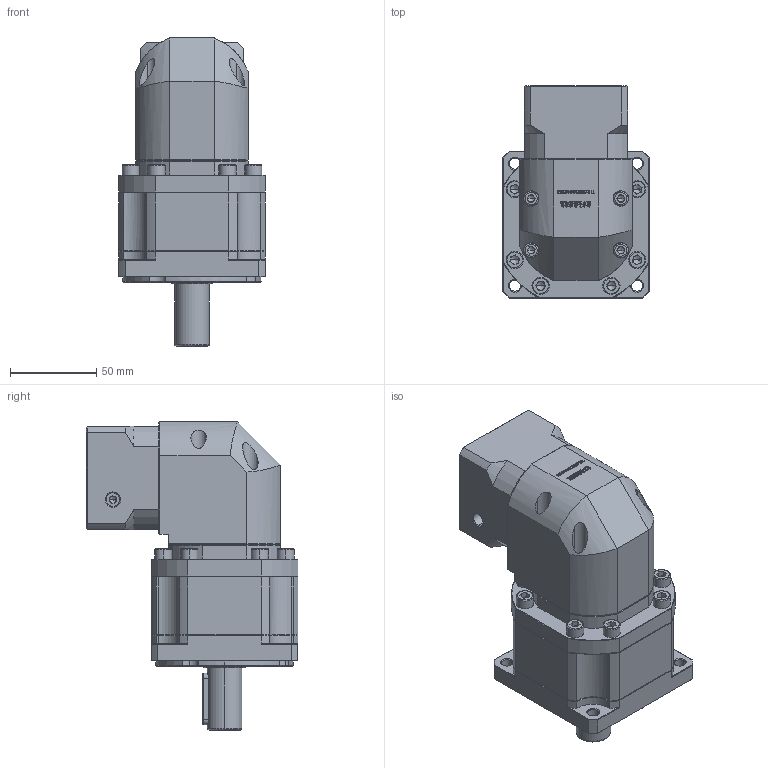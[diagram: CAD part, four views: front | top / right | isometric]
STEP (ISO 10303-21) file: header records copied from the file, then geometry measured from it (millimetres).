
FILE_DESCRIPTION (( 'STEP AP214' ), '1' );
FILE_NAME ('ZBR90-D20-L2-6.35-38.1-47.14x47.14-M4.step', '2022-05-07T15:16:19', ( '' ), ( 'Microsoft' ), 'SwSTEP 2.0', 'SolidWorks 2016', '' );
FILE_SCHEMA (( 'AUTOMOTIVE_DESIGN' ));
Length unit declared in the file: millimetre
Products named in the file (1): ZBR90-D20-L2-6.35-38.1-47.14x47.14-M4
Bounding box: 85 x 122.7 x 178.5 mm (x, y, z)
Volume: 804885.8 mm3; surface area: 100738 mm2
Topology: 5 solids, 5 shells, 3036 faces, 8121 edges, 5230 vertices
Faces by surface type: plane 1599, bspline 620, cylinder 439, cone 370, torus 8
Entity records: 161380 total; most frequent: CARTESIAN_POINT 56863, ORIENTED_EDGE 16150, DIRECTION 12415, EDGE_CURVE 8075, LINE 5333, VECTOR 5333, VERTEX_POINT 5230, AXIS2_PLACEMENT_3D 3541
